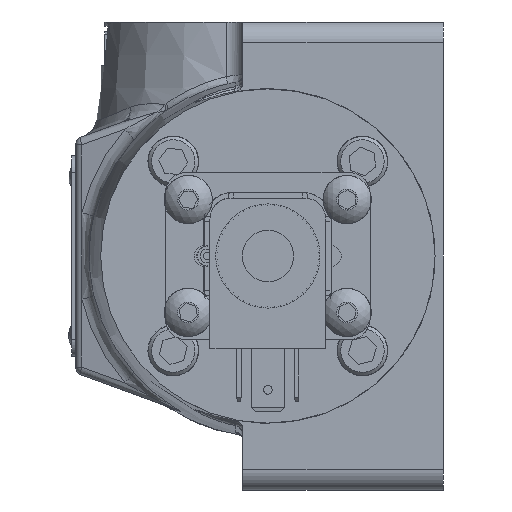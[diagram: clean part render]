
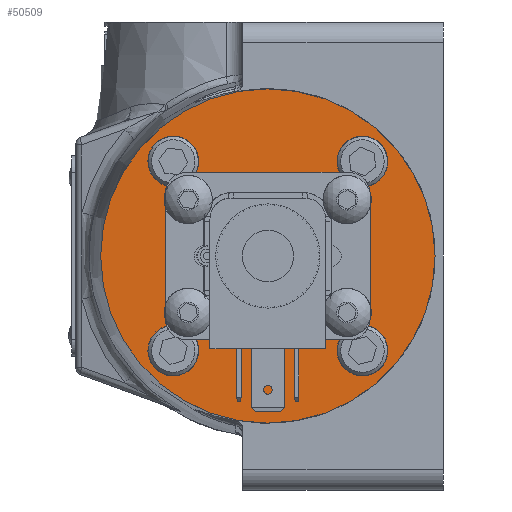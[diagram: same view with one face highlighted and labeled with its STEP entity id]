
A CAD part, left-side view. The second image highlights one B-rep face of the part: STEP entity #50509.
In plain terms, the highlighted planar face has unit normal (-1, 0, 0).
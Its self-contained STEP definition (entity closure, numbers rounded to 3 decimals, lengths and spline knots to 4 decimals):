
#2057=FACE_BOUND('',#9961,.T.);
#3536=CIRCLE('',#54483,0.4);
#3538=CIRCLE('',#54486,0.4);
#3541=CIRCLE('',#54491,0.4);
#3543=CIRCLE('',#54495,0.4);
#3670=CIRCLE('',#54841,3.175);
#3676=CIRCLE('',#54851,0.4826);
#3678=CIRCLE('',#54854,0.4826);
#3680=CIRCLE('',#54857,0.4826);
#3682=CIRCLE('',#54860,0.4826);
#6491=FACE_OUTER_BOUND('',#9960,.T.);
#9960=EDGE_LOOP('',(#38403));
#9961=EDGE_LOOP('',(#38404,#38405,#38406,#38407,#38408,#38409,#38410,#38411,
#38412,#38413,#38414,#38415));
#13296=LINE('',#79278,#16442);
#13303=LINE('',#79302,#16449);
#13308=LINE('',#79316,#16454);
#13310=LINE('',#79323,#16456);
#16442=VECTOR('',#63946,2.35);
#16449=VECTOR('',#63969,2.7341);
#16454=VECTOR('',#63982,2.7341);
#16456=VECTOR('',#63992,2.35);
#21452=VERTEX_POINT('',#79275);
#21453=VERTEX_POINT('',#79277);
#21455=VERTEX_POINT('',#79283);
#21457=VERTEX_POINT('',#79289);
#21458=VERTEX_POINT('',#79291);
#21461=VERTEX_POINT('',#79299);
#21462=VERTEX_POINT('',#79301);
#21463=VERTEX_POINT('',#79305);
#21464=VERTEX_POINT('',#79307);
#21466=VERTEX_POINT('',#79313);
#21467=VERTEX_POINT('',#79315);
#21468=VERTEX_POINT('',#79319);
#21791=VERTEX_POINT('',#80634);
#27104=EDGE_CURVE('',#21453,#21452,#13296,.T.);
#27107=EDGE_CURVE('',#21453,#21455,#3536,.T.);
#27111=EDGE_CURVE('',#21457,#21458,#3538,.T.);
#27116=EDGE_CURVE('',#21462,#21461,#13303,.T.);
#27119=EDGE_CURVE('',#21463,#21464,#3541,.T.);
#27123=EDGE_CURVE('',#21467,#21466,#13308,.T.);
#27126=EDGE_CURVE('',#21468,#21452,#3543,.T.);
#27127=EDGE_CURVE('',#21457,#21464,#13310,.T.);
#27620=EDGE_CURVE('',#21791,#21791,#3670,.T.);
#27627=EDGE_CURVE('',#21463,#21462,#3676,.T.);
#27629=EDGE_CURVE('',#21466,#21458,#3678,.T.);
#27631=EDGE_CURVE('',#21468,#21467,#3680,.T.);
#27633=EDGE_CURVE('',#21461,#21455,#3682,.T.);
#38403=ORIENTED_EDGE('',*,*,#27620,.F.);
#38404=ORIENTED_EDGE('',*,*,#27107,.F.);
#38405=ORIENTED_EDGE('',*,*,#27104,.T.);
#38406=ORIENTED_EDGE('',*,*,#27126,.F.);
#38407=ORIENTED_EDGE('',*,*,#27631,.T.);
#38408=ORIENTED_EDGE('',*,*,#27123,.T.);
#38409=ORIENTED_EDGE('',*,*,#27629,.T.);
#38410=ORIENTED_EDGE('',*,*,#27111,.F.);
#38411=ORIENTED_EDGE('',*,*,#27127,.T.);
#38412=ORIENTED_EDGE('',*,*,#27119,.F.);
#38413=ORIENTED_EDGE('',*,*,#27627,.T.);
#38414=ORIENTED_EDGE('',*,*,#27116,.T.);
#38415=ORIENTED_EDGE('',*,*,#27633,.T.);
#45480=PLANE('',#54902);
#50509=ADVANCED_FACE('',(#6491,#2057),#45480,.T.);
#54483=AXIS2_PLACEMENT_3D('',#79284,#63952,#63953);
#54486=AXIS2_PLACEMENT_3D('',#79292,#63960,#63961);
#54491=AXIS2_PLACEMENT_3D('',#79308,#63975,#63976);
#54495=AXIS2_PLACEMENT_3D('',#79321,#63988,#63989);
#54841=AXIS2_PLACEMENT_3D('',#80635,#65021,#65022);
#54851=AXIS2_PLACEMENT_3D('',#80651,#65042,#65043);
#54854=AXIS2_PLACEMENT_3D('',#80655,#65048,#65049);
#54857=AXIS2_PLACEMENT_3D('',#80659,#65054,#65055);
#54860=AXIS2_PLACEMENT_3D('',#80663,#65060,#65061);
#54902=AXIS2_PLACEMENT_3D('',#80959,#65151,#65152);
#63946=DIRECTION('',(0.,0.,-1.));
#63952=DIRECTION('center_axis',(-1.,0.,0.));
#63953=DIRECTION('ref_axis',(0.,-0.707,0.707));
#63960=DIRECTION('center_axis',(-1.,0.,0.));
#63961=DIRECTION('ref_axis',(0.,0.707,-0.707));
#63969=DIRECTION('',(0.,-1.,0.));
#63975=DIRECTION('center_axis',(-1.,0.,0.));
#63976=DIRECTION('ref_axis',(0.,0.707,0.707));
#63982=DIRECTION('',(0.,1.,0.));
#63988=DIRECTION('center_axis',(-1.,0.,0.));
#63989=DIRECTION('ref_axis',(0.,-0.707,-0.707));
#63992=DIRECTION('',(0.,0.,1.));
#65021=DIRECTION('center_axis',(1.,0.,0.));
#65022=DIRECTION('ref_axis',(0.,1.,0.));
#65042=DIRECTION('center_axis',(1.,0.,0.));
#65043=DIRECTION('ref_axis',(0.,-1.,0.));
#65048=DIRECTION('center_axis',(1.,0.,0.));
#65049=DIRECTION('ref_axis',(0.,0.,
1.));
#65054=DIRECTION('center_axis',(1.,0.,0.));
#65055=DIRECTION('ref_axis',(0.,1.,0.));
#65060=DIRECTION('center_axis',(1.,0.,0.));
#65061=DIRECTION('ref_axis',(0.,0.,
-1.));
#65151=DIRECTION('center_axis',(-1.,0.,0.));
#65152=DIRECTION('ref_axis',(0.,-1.,0.));
#79275=CARTESIAN_POINT('',(-6.9025,-1.94,-1.175));
#79277=CARTESIAN_POINT('',(-6.9025,-1.94,1.175));
#79278=CARTESIAN_POINT('',(-6.9025,-1.94,1.575));
#79283=CARTESIAN_POINT('',(-6.9025,-1.91,1.3271));
#79284=CARTESIAN_POINT('Origin',(-6.9025,-1.54,1.175));
#79289=CARTESIAN_POINT('',(-6.9025,1.94,-1.175));
#79291=CARTESIAN_POINT('',(-6.9025,1.91,-1.3271));
#79292=CARTESIAN_POINT('Origin',(-6.9025,1.54,-1.175));
#79299=CARTESIAN_POINT('',(-6.9025,-1.3671,1.575));
#79301=CARTESIAN_POINT('',(-6.9025,1.3671,1.575));
#79302=CARTESIAN_POINT('',(-6.9025,1.94,1.575));
#79305=CARTESIAN_POINT('',(-6.9025,1.91,1.3271));
#79307=CARTESIAN_POINT('',(-6.9025,1.94,1.175));
#79308=CARTESIAN_POINT('Origin',(-6.9025,1.54,1.175));
#79313=CARTESIAN_POINT('',(-6.9025,1.3671,-1.575));
#79315=CARTESIAN_POINT('',(-6.9025,-1.3671,-1.575));
#79316=CARTESIAN_POINT('',(-6.9025,-1.94,-1.575));
#79319=CARTESIAN_POINT('',(-6.9025,-1.91,-1.3271));
#79321=CARTESIAN_POINT('Origin',(-6.9025,-1.54,-1.175));
#79323=CARTESIAN_POINT('',(-6.9025,1.94,-1.575));
#80634=CARTESIAN_POINT('',(-6.9025,0.,3.175));
#80635=CARTESIAN_POINT('Origin',(-6.9025,0.,0.));
#80651=CARTESIAN_POINT('Origin',(-6.9025,1.7961,1.7961));
#80655=CARTESIAN_POINT('Origin',(-6.9025,1.7961,-1.7961));
#80659=CARTESIAN_POINT('Origin',(-6.9025,-1.7961,-1.7961));
#80663=CARTESIAN_POINT('Origin',(-6.9025,-1.7961,1.7961));
#80959=CARTESIAN_POINT('Origin',(-6.9025,0.,1.5875));
